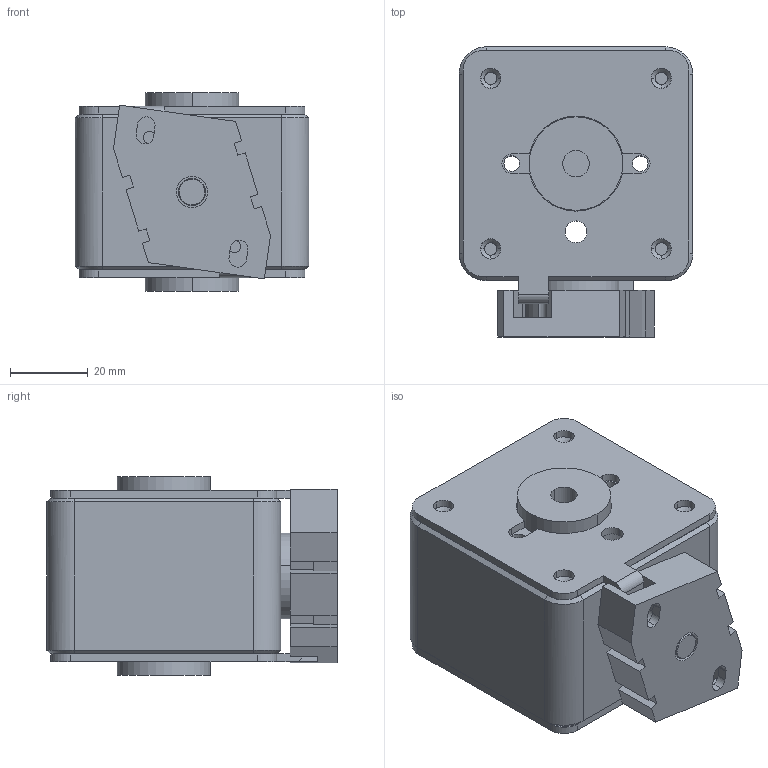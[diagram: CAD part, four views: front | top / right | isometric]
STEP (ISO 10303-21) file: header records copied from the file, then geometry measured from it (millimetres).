
FILE_DESCRIPTION (( 'STEP AP214' ), '1' );
FILE_NAME ('OptiFuse FR-S32_TF.STEP', '2024-02-28T11:31:48', ( '' ), ( '' ), 'SwSTEP 2.0', 'SolidWorks 2018', '' );
FILE_SCHEMA (( 'AUTOMOTIVE_DESIGN' ));
Length unit declared in the file: millimetre
Products named in the file (1): OptiFuse FR-S32_TF
Bounding box: 60 x 74.5 x 51 mm (x, y, z)
Volume: 106243.3 mm3; surface area: 47804.2 mm2
Topology: 8 solids, 8 shells, 348 faces, 860 edges, 554 vertices
Faces by surface type: plane 152, cylinder 146, cone 40, torus 10
Entity records: 15177 total; most frequent: CARTESIAN_POINT 2959, ORIENTED_EDGE 1720, DIRECTION 1678, EDGE_CURVE 860, AXIS2_PLACEMENT_3D 629, VERTEX_POINT 554, EDGE_LOOP 422, VECTOR 420
